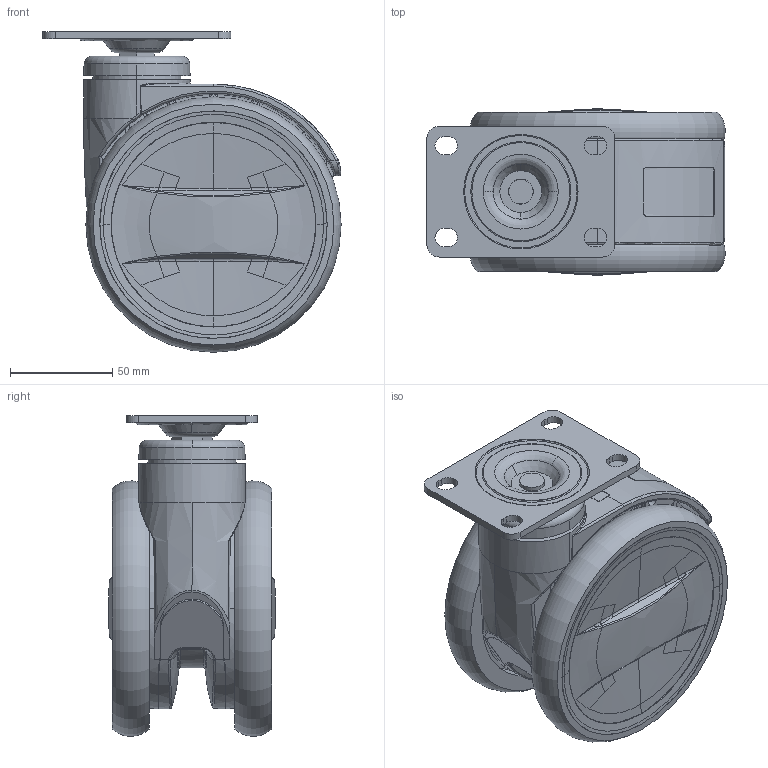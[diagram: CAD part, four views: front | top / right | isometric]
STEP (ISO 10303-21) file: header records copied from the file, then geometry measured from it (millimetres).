
FILE_DESCRIPTION(/* description */ (''),/* implementation_level */ '2;1');
FILE_NAME(/* name */ '80T05_5_F.stp',/* time_stamp */ '2022-10-17T15:56:58+08:00',/* author */ (''),/* organization */ (''),/* preprocessor_version */ 'ST-DEVELOPER v14',/* originating_system */ 'SIEMENS PLM Software NX 8.0',/* authorisation */ '');
FILE_SCHEMA (('AUTOMOTIVE_DESIGN { 1 0 10303 214 3 1 1 1 }'));
Products named in the file (1): 80T05_5_F
Bounding box: 145.97 x 81.47 x 156.87 mm (x, y, z)
Volume: 550499.3 mm3; surface area: 280756.7 mm2
Topology: 3 solids, 31 shells, 3895 faces, 11253 edges, 7465 vertices
Faces by surface type: plane 1650, cylinder 1421, bspline 384, cone 321, torus 93, sphere 26
Full cylindrical faces by diameter (mm): 111.247 x2
Entity records: 159017 total; most frequent: CARTESIAN_POINT 62296, ORIENTED_EDGE 22466, DIRECTION 17641, EDGE_CURVE 11233, VERTEX_POINT 7463, AXIS2_PLACEMENT_3D 6442, LINE 4757, VECTOR 4757
